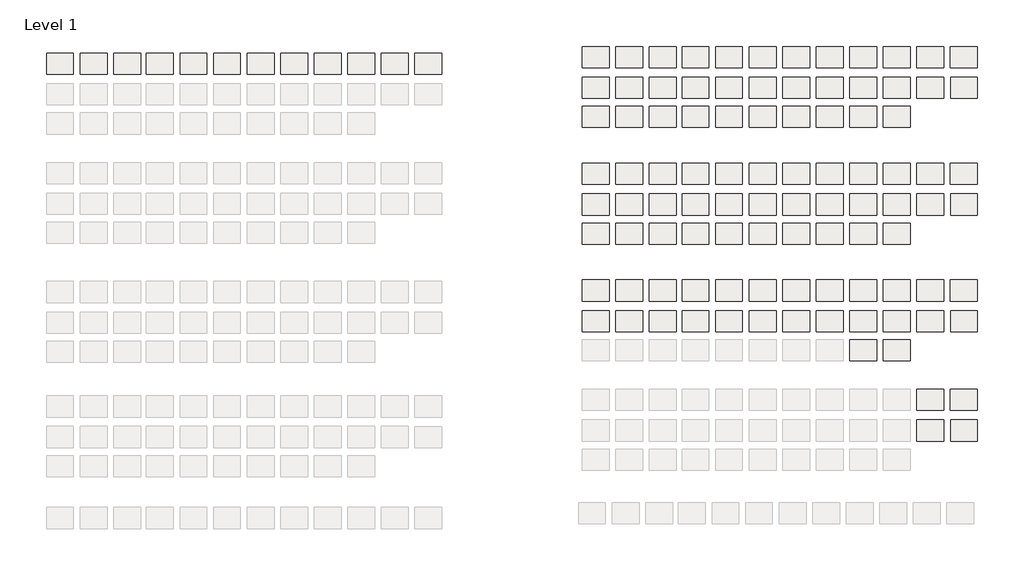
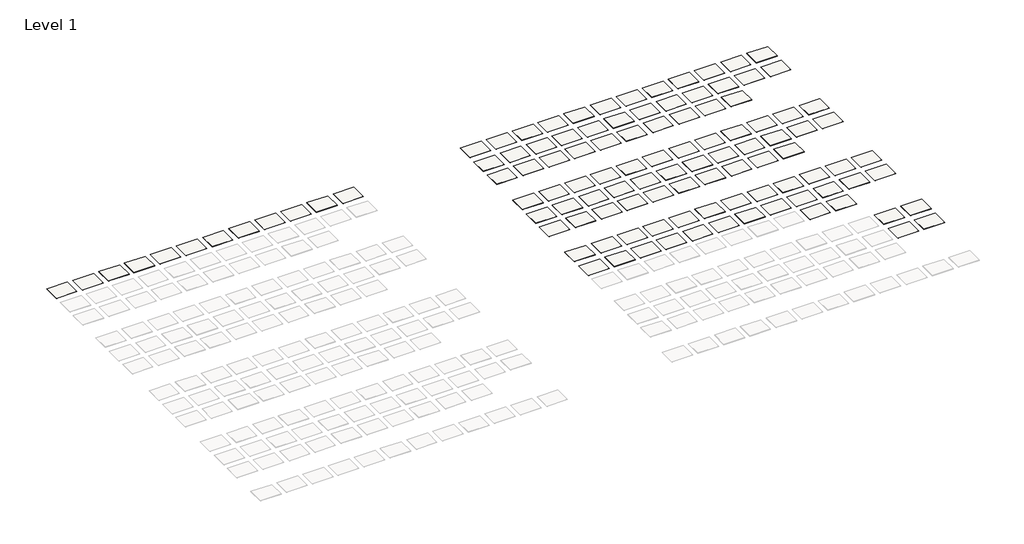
# One storey, part 4 of 4: 110 coverings.
"""IFC4 building model written with IfcOpenShell, lengths in millimetres."""

from ifc_helpers import new_model, si_unit, frame, origin, place, context, project, spatial, polyline, outline, extrude, element, save

model = new_model("IFC4")

# Units and contexts
model_context = context("Model", 3, world=origin())
ifc_project = project(units=[si_unit("LENGTHUNIT", "METRE", prefix="MILLI")], contexts=[model_context])

# Site, building, storey
site = spatial("IfcSite", under=ifc_project)
building = spatial("IfcBuilding", under=site)
storey = spatial("IfcBuildingStorey", under=building, Name="Level 1", Elevation=0.0)

# Coverings
placement = place(None, origin())
element("IfcCovering", 1, ObjectType="Rockfon Color-all E24 600 x 600 mm Petal", at=placement, inside=storey, context=model_context, shape_type="SweptSolid", body=[
    extrude(outline(polyline([(114319.6096566, -41151.2630286), (114319.6096566, -44051.2630286), (110629.6096566, -44051.2630286), (110629.6096566, -41151.2630286), (114319.6096566, -41151.2630286)])), frame((0.0, 0.0, 1.0), z_axis=(0.0, 0.0, 1.0), x_axis=(1.0, 0.0, 0.0)), (0.0, 0.0, 1.0), 20.0),
])
element("IfcCovering", 2, ObjectType="Rockfon Color-all E24 600 x 600 mm Mastic", at=placement, inside=storey, context=model_context, shape_type="SweptSolid", body=[
    extrude(outline(polyline([(114319.6096566, -45351.2630286), (114319.6096566, -48251.2630286), (110629.6096566, -48251.2630286), (110629.6096566, -45351.2630286), (114319.6096566, -45351.2630286)])), frame((0.0, 0.0, 1.0), z_axis=(0.0, 0.0, 1.0), x_axis=(1.0, 0.0, 0.0)), (0.0, 0.0, 1.0), 20.0),
])
element("IfcCovering", 3, ObjectType="Rockfon Color-all E24 600 x 600 mm Mercury", at=placement, inside=storey, context=model_context, shape_type="SweptSolid", body=[
    extrude(outline(polyline([(118938.680914, -45356.3905896), (118938.680914, -48256.3905896), (115248.680914, -48256.3905896), (115248.680914, -45356.3905896), (118938.680914, -45356.3905896)])), frame((0.0, 0.0, 1.0), z_axis=(0.0, 0.0, 1.0), x_axis=(1.0, 0.0, 0.0)), (0.0, 0.0, 1.0), 20.0),
])
element("IfcCovering", 4, ObjectType="Rockfon Color-all E24 600 x 600 mm Earth", at=placement, inside=storey, context=model_context, shape_type="SweptSolid", body=[
    extrude(outline(polyline([(118919.6096566, -41151.2630286), (118919.6096566, -44051.2630286), (115229.6096566, -44051.2630286), (115229.6096566, -41151.2630286), (118919.6096566, -41151.2630286)])), frame((0.0, 0.0, 1.0), z_axis=(0.0, 0.0, 1.0), x_axis=(1.0, 0.0, 0.0)), (0.0, 0.0, 1.0), 20.0),
])
element("IfcCovering", 5, ObjectType="Rockfon Color-all E15 600 x 600 mm Anthracite", at=placement, inside=storey, context=model_context, shape_type="SweptSolid", body=[
    extrude(outline(polyline([(68419.6096566, -26151.2630286), (68419.6096566, -29051.2630286), (64729.6096566, -29051.2630286), (64729.6096566, -26151.2630286), (68419.6096566, -26151.2630286)])), frame((0.0, 0.0, 1.0), z_axis=(0.0, 0.0, 1.0), x_axis=(1.0, 0.0, 0.0)), (0.0, 0.0, 1.0), 20.0),
])
element("IfcCovering", 6, ObjectType="Rockfon Color-all E15 600 x 600 mm Seaweed", at=placement, inside=storey, context=model_context, shape_type="SweptSolid", body=[
    extrude(outline(polyline([(68419.6096566, -30351.2630286), (68419.6096566, -33251.2630286), (64729.6096566, -33251.2630286), (64729.6096566, -30351.2630286), (68419.6096566, -30351.2630286)])), frame((0.0, 0.0, 1.0), z_axis=(0.0, 0.0, 1.0), x_axis=(1.0, 0.0, 0.0)), (0.0, 0.0, 1.0), 20.0),
])
element("IfcCovering", 7, ObjectType="Rockfon Color-all E15 600 x 600 mm Mustard", at=placement, inside=storey, context=model_context, shape_type="SweptSolid", body=[
    extrude(outline(polyline([(73019.6096566, -26151.2630286), (73019.6096566, -29051.2630286), (69329.6096566, -29051.2630286), (69329.6096566, -26151.2630286), (73019.6096566, -26151.2630286)])), frame((0.0, 0.0, 1.0), z_axis=(0.0, 0.0, 1.0), x_axis=(1.0, 0.0, 0.0)), (0.0, 0.0, 1.0), 20.0),
])
element("IfcCovering", 8, ObjectType="Rockfon Color-all E15 600 x 600 mm Eucalyptus", at=placement, inside=storey, context=model_context, shape_type="SweptSolid", body=[
    extrude(outline(polyline([(73019.6096566, -30351.2630286), (73019.6096566, -33251.2630286), (69329.6096566, -33251.2630286), (69329.6096566, -30351.2630286), (73019.6096566, -30351.2630286)])), frame((0.0, 0.0, 1.0), z_axis=(0.0, 0.0, 1.0), x_axis=(1.0, 0.0, 0.0)), (0.0, 0.0, 1.0), 20.0),
])
element("IfcCovering", 9, ObjectType="Rockfon Color-all E15 600 x 600 mm Sand", at=placement, inside=storey, context=model_context, shape_type="SweptSolid", body=[
    extrude(outline(polyline([(77619.6096566, -26151.2630286), (77619.6096566, -29051.2630286), (73929.6096566, -29051.2630286), (73929.6096566, -26151.2630286), (77619.6096566, -26151.2630286)])), frame((0.0, 0.0, 1.0), z_axis=(0.0, 0.0, 1.0), x_axis=(1.0, 0.0, 0.0)), (0.0, 0.0, 1.0), 20.0),
])
element("IfcCovering", 10, ObjectType="Rockfon Color-all E15 600 x 600 mm Fresh", at=placement, inside=storey, context=model_context, shape_type="SweptSolid", body=[
    extrude(outline(polyline([(77619.6096566, -30351.2630286), (77619.6096566, -33251.2630286), (73929.6096566, -33251.2630286), (73929.6096566, -30351.2630286), (77619.6096566, -30351.2630286)])), frame((0.0, 0.0, 1.0), z_axis=(0.0, 0.0, 1.0), x_axis=(1.0, 0.0, 0.0)), (0.0, 0.0, 1.0), 20.0),
])
element("IfcCovering", 11, ObjectType="Rockfon Color-all E15 600 x 600 mm Chalk", at=placement, inside=storey, context=model_context, shape_type="SweptSolid", body=[
    extrude(outline(polyline([(82119.6096566, -26151.2630286), (82119.6096566, -29051.2630286), (78429.6096566, -29051.2630286), (78429.6096566, -26151.2630286), (82119.6096566, -26151.2630286)])), frame((0.0, 0.0, 1.0), z_axis=(0.0, 0.0, 1.0), x_axis=(1.0, 0.0, 0.0)), (0.0, 0.0, 1.0), 20.0),
])
element("IfcCovering", 12, ObjectType="Rockfon Color-all E15 600 x 600 mm Sage", at=placement, inside=storey, context=model_context, shape_type="SweptSolid", body=[
    extrude(outline(polyline([(82119.6096566, -30351.2630286), (82119.6096566, -33251.2630286), (78429.6096566, -33251.2630286), (78429.6096566, -30351.2630286), (82119.6096566, -30351.2630286)])), frame((0.0, 0.0, 1.0), z_axis=(0.0, 0.0, 1.0), x_axis=(1.0, 0.0, 0.0)), (0.0, 0.0, 1.0), 20.0),
])
element("IfcCovering", 13, ObjectType="Rockfon Color-all E15 600 x 600 mm Charcoal", at=placement, inside=storey, context=model_context, shape_type="SweptSolid", body=[
    extrude(outline(polyline([(86719.6096566, -26151.2630286), (86719.6096566, -29051.2630286), (83029.6096566, -29051.2630286), (83029.6096566, -26151.2630286), (86719.6096566, -26151.2630286)])), frame((0.0, 0.0, 1.0), z_axis=(0.0, 0.0, 1.0), x_axis=(1.0, 0.0, 0.0)), (0.0, 0.0, 1.0), 20.0),
])
element("IfcCovering", 14, ObjectType="Rockfon Color-all E15 600 x 600 mm Mint", at=placement, inside=storey, context=model_context, shape_type="SweptSolid", body=[
    extrude(outline(polyline([(86719.6096566, -30351.2630286), (86719.6096566, -33251.2630286), (83029.6096566, -33251.2630286), (83029.6096566, -30351.2630286), (86719.6096566, -30351.2630286)])), frame((0.0, 0.0, 1.0), z_axis=(0.0, 0.0, 1.0), x_axis=(1.0, 0.0, 0.0)), (0.0, 0.0, 1.0), 20.0),
])
element("IfcCovering", 15, ObjectType="Rockfon Color-all E15 600 x 600 mm Coral", at=placement, inside=storey, context=model_context, shape_type="SweptSolid", body=[
    extrude(outline(polyline([(91319.6096566, -26151.2630286), (91319.6096566, -29051.2630286), (87629.6096566, -29051.2630286), (87629.6096566, -26151.2630286), (91319.6096566, -26151.2630286)])), frame((0.0, 0.0, 1.0), z_axis=(0.0, 0.0, 1.0), x_axis=(1.0, 0.0, 0.0)), (0.0, 0.0, 1.0), 20.0),
])
element("IfcCovering", 16, ObjectType="Rockfon Color-all E15 600 x 600 mm Gravel", at=placement, inside=storey, context=model_context, shape_type="SweptSolid", body=[
    extrude(outline(polyline([(91319.6096566, -30351.2630286), (91319.6096566, -33251.2630286), (87629.6096566, -33251.2630286), (87629.6096566, -30351.2630286), (91319.6096566, -30351.2630286)])), frame((0.0, 0.0, 1.0), z_axis=(0.0, 0.0, 1.0), x_axis=(1.0, 0.0, 0.0)), (0.0, 0.0, 1.0), 20.0),
])
element("IfcCovering", 17, ObjectType="Rockfon Color-all E15 600 x 600 mm Clay", at=placement, inside=storey, context=model_context, shape_type="SweptSolid", body=[
    extrude(outline(polyline([(95919.6096566, -26151.2630286), (95919.6096566, -29051.2630286), (92229.6096566, -29051.2630286), (92229.6096566, -26151.2630286), (95919.6096566, -26151.2630286)])), frame((0.0, 0.0, 1.0), z_axis=(0.0, 0.0, 1.0), x_axis=(1.0, 0.0, 0.0)), (0.0, 0.0, 1.0), 20.0),
])
element("IfcCovering", 18, ObjectType="Rockfon Color-all E15 600 x 600 mm Hemp", at=placement, inside=storey, context=model_context, shape_type="SweptSolid", body=[
    extrude(outline(polyline([(95919.6096566, -30351.2630286), (95919.6096566, -33251.2630286), (92229.6096566, -33251.2630286), (92229.6096566, -30351.2630286), (95919.6096566, -30351.2630286)])), frame((0.0, 0.0, 1.0), z_axis=(0.0, 0.0, 1.0), x_axis=(1.0, 0.0, 0.0)), (0.0, 0.0, 1.0), 20.0),
])
element("IfcCovering", 19, ObjectType="Rockfon Color-all E15 600 x 600 mm Concrete", at=placement, inside=storey, context=model_context, shape_type="SweptSolid", body=[
    extrude(outline(polyline([(100519.6096566, -26151.2630286), (100519.6096566, -29051.2630286), (96829.6096566, -29051.2630286), (96829.6096566, -26151.2630286), (100519.6096566, -26151.2630286)])), frame((0.0, 0.0, 1.0), z_axis=(0.0, 0.0, 1.0), x_axis=(1.0, 0.0, 0.0)), (0.0, 0.0, 1.0), 20.0),
])
element("IfcCovering", 20, ObjectType="Rockfon Color-all E15 600 x 600 mm Space", at=placement, inside=storey, context=model_context, shape_type="SweptSolid", body=[
    extrude(outline(polyline([(100519.6096566, -30351.2630286), (100519.6096566, -33251.2630286), (96829.6096566, -33251.2630286), (96829.6096566, -30351.2630286), (100519.6096566, -30351.2630286)])), frame((0.0, 0.0, 1.0), z_axis=(0.0, 0.0, 1.0), x_axis=(1.0, 0.0, 0.0)), (0.0, 0.0, 1.0), 20.0),
])
element("IfcCovering", 21, ObjectType="Rockfon Color-all E15 600 x 600 mm Seashell", at=placement, inside=storey, context=model_context, shape_type="SweptSolid", body=[
    extrude(outline(polyline([(105119.6096566, -26151.2630286), (105119.6096566, -29051.2630286), (101429.6096566, -29051.2630286), (101429.6096566, -26151.2630286), (105119.6096566, -26151.2630286)])), frame((0.0, 0.0, 1.0), z_axis=(0.0, 0.0, 1.0), x_axis=(1.0, 0.0, 0.0)), (0.0, 0.0, 1.0), 20.0),
])
element("IfcCovering", 22, ObjectType="Rockfon Color-all E15 600 x 600 mm Storm", at=placement, inside=storey, context=model_context, shape_type="SweptSolid", body=[
    extrude(outline(polyline([(105119.6096566, -30351.2630286), (105119.6096566, -33251.2630286), (101429.6096566, -33251.2630286), (101429.6096566, -30351.2630286), (105119.6096566, -30351.2630286)])), frame((0.0, 0.0, 1.0), z_axis=(0.0, 0.0, 1.0), x_axis=(1.0, 0.0, 0.0)), (0.0, 0.0, 1.0), 20.0),
])
element("IfcCovering", 23, ObjectType="Rockfon Color-all E15 600 x 600 mm Moon", at=placement, inside=storey, context=model_context, shape_type="SweptSolid", body=[
    extrude(outline(polyline([(105119.6096566, -34351.2630286), (105119.6096566, -37251.2630286), (101429.6096566, -37251.2630286), (101429.6096566, -34351.2630286), (105119.6096566, -34351.2630286)])), frame((0.0, 0.0, 1.0), z_axis=(0.0, 0.0, 1.0), x_axis=(1.0, 0.0, 0.0)), (0.0, 0.0, 1.0), 20.0),
])
element("IfcCovering", 24, ObjectType="Rockfon Color-all E15 600 x 600 mm Cork", at=placement, inside=storey, context=model_context, shape_type="SweptSolid", body=[
    extrude(outline(polyline([(109719.6096566, -26151.2630286), (109719.6096566, -29051.2630286), (106029.6096566, -29051.2630286), (106029.6096566, -26151.2630286), (109719.6096566, -26151.2630286)])), frame((0.0, 0.0, 1.0), z_axis=(0.0, 0.0, 1.0), x_axis=(1.0, 0.0, 0.0)), (0.0, 0.0, 1.0), 20.0),
])
element("IfcCovering", 25, ObjectType="Rockfon Color-all E15 600 x 600 mm Linen", at=placement, inside=storey, context=model_context, shape_type="SweptSolid", body=[
    extrude(outline(polyline([(109719.6096566, -30351.2630286), (109719.6096566, -33251.2630286), (106029.6096566, -33251.2630286), (106029.6096566, -30351.2630286), (109719.6096566, -30351.2630286)])), frame((0.0, 0.0, 1.0), z_axis=(0.0, 0.0, 1.0), x_axis=(1.0, 0.0, 0.0)), (0.0, 0.0, 1.0), 20.0),
])
element("IfcCovering", 26, ObjectType="Rockfon Color-all E15 600 x 600 mm Zinc", at=placement, inside=storey, context=model_context, shape_type="SweptSolid", body=[
    extrude(outline(polyline([(109719.6096566, -34351.2630286), (109719.6096566, -37251.2630286), (106029.6096566, -37251.2630286), (106029.6096566, -34351.2630286), (109719.6096566, -34351.2630286)])), frame((0.0, 0.0, 1.0), z_axis=(0.0, 0.0, 1.0), x_axis=(1.0, 0.0, 0.0)), (0.0, 0.0, 1.0), 20.0),
])
element("IfcCovering", 27, ObjectType="Rockfon Color-all E15 600 x 600 mm Petal", at=placement, inside=storey, context=model_context, shape_type="SweptSolid", body=[
    extrude(outline(polyline([(114319.6096566, -26151.2630286), (114319.6096566, -29051.2630286), (110629.6096566, -29051.2630286), (110629.6096566, -26151.2630286), (114319.6096566, -26151.2630286)])), frame((0.0, 0.0, 1.0), z_axis=(0.0, 0.0, 1.0), x_axis=(1.0, 0.0, 0.0)), (0.0, 0.0, 1.0), 20.0),
])
element("IfcCovering", 28, ObjectType="Rockfon Color-all E15 600 x 600 mm Mastic", at=placement, inside=storey, context=model_context, shape_type="SweptSolid", body=[
    extrude(outline(polyline([(114319.6096566, -30351.2630286), (114319.6096566, -33251.2630286), (110629.6096566, -33251.2630286), (110629.6096566, -30351.2630286), (114319.6096566, -30351.2630286)])), frame((0.0, 0.0, 1.0), z_axis=(0.0, 0.0, 1.0), x_axis=(1.0, 0.0, 0.0)), (0.0, 0.0, 1.0), 20.0),
])
element("IfcCovering", 29, ObjectType="Rockfon Color-all E15 600 x 600 mm Mercury", at=placement, inside=storey, context=model_context, shape_type="SweptSolid", body=[
    extrude(outline(polyline([(118938.680914, -30356.3905896), (118938.680914, -33256.3905896), (115248.680914, -33256.3905896), (115248.680914, -30356.3905896), (118938.680914, -30356.3905896)])), frame((0.0, 0.0, 1.0), z_axis=(0.0, 0.0, 1.0), x_axis=(1.0, 0.0, 0.0)), (0.0, 0.0, 1.0), 20.0),
])
element("IfcCovering", 30, ObjectType="Rockfon Color-all E15 600 x 600 mm Earth", at=placement, inside=storey, context=model_context, shape_type="SweptSolid", body=[
    extrude(outline(polyline([(118919.6096566, -26151.2630286), (118919.6096566, -29051.2630286), (115229.6096566, -29051.2630286), (115229.6096566, -26151.2630286), (118919.6096566, -26151.2630286)])), frame((0.0, 0.0, 1.0), z_axis=(0.0, 0.0, 1.0), x_axis=(1.0, 0.0, 0.0)), (0.0, 0.0, 1.0), 20.0),
])
element("IfcCovering", 31, ObjectType="Rockfon Color-all X 600 x 600 mm Anthracite", at=placement, inside=storey, context=model_context, shape_type="SweptSolid", body=[
    extrude(outline(polyline([(-5022.2855434, 4948.2467138), (-5022.2855434, 2048.2467138), (-8712.2855434, 2048.2467138), (-8712.2855434, 4948.2467138), (-5022.2855434, 4948.2467138)])), frame((0.0, 0.0, 1.0), z_axis=(0.0, 0.0, 1.0), x_axis=(1.0, 0.0, 0.0)), (0.0, 0.0, 1.0), 22.0),
])
element("IfcCovering", 32, ObjectType="Rockfon Color-all X 600 x 600 mm Mustard", at=placement, inside=storey, context=model_context, shape_type="SweptSolid", body=[
    extrude(outline(polyline([(-422.2855434, 4948.2467138), (-422.2855434, 2048.2467138), (-4112.2855434, 2048.2467138), (-4112.2855434, 4948.2467138), (-422.2855434, 4948.2467138)])), frame((0.0, 0.0, 1.0), z_axis=(0.0, 0.0, 1.0), x_axis=(1.0, 0.0, 0.0)), (0.0, 0.0, 1.0), 22.0),
])
element("IfcCovering", 33, ObjectType="Rockfon Color-all X 600 x 600 mm Sand", at=placement, inside=storey, context=model_context, shape_type="SweptSolid", body=[
    extrude(outline(polyline([(4177.7144566, 4948.2467138), (4177.7144566, 2048.2467138), (487.7144566, 2048.2467138), (487.7144566, 4948.2467138), (4177.7144566, 4948.2467138)])), frame((0.0, 0.0, 1.0), z_axis=(0.0, 0.0, 1.0), x_axis=(1.0, 0.0, 0.0)), (0.0, 0.0, 1.0), 15.0),
])
element("IfcCovering", 34, ObjectType="Rockfon Color-all X 600 x 600 mm Chalk", at=placement, inside=storey, context=model_context, shape_type="SweptSolid", body=[
    extrude(outline(polyline([(8677.7144566, 4948.2467138), (8677.7144566, 2048.2467138), (4987.7144566, 2048.2467138), (4987.7144566, 4948.2467138), (8677.7144566, 4948.2467138)])), frame((0.0, 0.0, 1.0), z_axis=(0.0, 0.0, 1.0), x_axis=(1.0, 0.0, 0.0)), (0.0, 0.0, 1.0), 22.0),
])
element("IfcCovering", 35, ObjectType="Rockfon Color-all X 600 x 600 mm Charcoal", at=placement, inside=storey, context=model_context, shape_type="SweptSolid", body=[
    extrude(outline(polyline([(13277.7144566, 4948.2467138), (13277.7144566, 2048.2467138), (9587.7144566, 2048.2467138), (9587.7144566, 4948.2467138), (13277.7144566, 4948.2467138)])), frame((0.0, 0.0, 1.0), z_axis=(0.0, 0.0, 1.0), x_axis=(1.0, 0.0, 0.0)), (0.0, 0.0, 1.0), 22.0),
])
element("IfcCovering", 36, ObjectType="Rockfon Color-all X 600 x 600 mm Coral", at=placement, inside=storey, context=model_context, shape_type="SweptSolid", body=[
    extrude(outline(polyline([(17877.7144566, 4948.2467138), (17877.7144566, 2048.2467138), (14187.7144566, 2048.2467138), (14187.7144566, 4948.2467138), (17877.7144566, 4948.2467138)])), frame((0.0, 0.0, 1.0), z_axis=(0.0, 0.0, 1.0), x_axis=(1.0, 0.0, 0.0)), (0.0, 0.0, 1.0), 22.0),
])
element("IfcCovering", 37, ObjectType="Rockfon Color-all X 600 x 600 mm Clay", at=placement, inside=storey, context=model_context, shape_type="SweptSolid", body=[
    extrude(outline(polyline([(22477.7144566, 4948.2467138), (22477.7144566, 2048.2467138), (18787.7144566, 2048.2467138), (18787.7144566, 4948.2467138), (22477.7144566, 4948.2467138)])), frame((0.0, 0.0, 1.0), z_axis=(0.0, 0.0, 1.0), x_axis=(1.0, 0.0, 0.0)), (0.0, 0.0, 1.0), 22.0),
])
element("IfcCovering", 38, ObjectType="Rockfon Color-all X 600 x 600 mm Concrete", at=placement, inside=storey, context=model_context, shape_type="SweptSolid", body=[
    extrude(outline(polyline([(27077.7144566, 4948.2467138), (27077.7144566, 2048.2467138), (23387.7144566, 2048.2467138), (23387.7144566, 4948.2467138), (27077.7144566, 4948.2467138)])), frame((0.0, 0.0, 1.0), z_axis=(0.0, 0.0, 1.0), x_axis=(1.0, 0.0, 0.0)), (0.0, 0.0, 1.0), 22.0),
])
element("IfcCovering", 39, ObjectType="Rockfon Color-all X 600 x 600 mm Seashell", at=placement, inside=storey, context=model_context, shape_type="SweptSolid", body=[
    extrude(outline(polyline([(31677.7144566, 4948.2467138), (31677.7144566, 2048.2467138), (27987.7144566, 2048.2467138), (27987.7144566, 4948.2467138), (31677.7144566, 4948.2467138)])), frame((0.0, 0.0, 1.0), z_axis=(0.0, 0.0, 1.0), x_axis=(1.0, 0.0, 0.0)), (0.0, 0.0, 1.0), 22.0),
])
element("IfcCovering", 40, ObjectType="Rockfon Color-all X 600 x 600 mm Cork", at=placement, inside=storey, context=model_context, shape_type="SweptSolid", body=[
    extrude(outline(polyline([(36277.7144566, 4948.2467138), (36277.7144566, 2048.2467138), (32587.7144566, 2048.2467138), (32587.7144566, 4948.2467138), (36277.7144566, 4948.2467138)])), frame((0.0, 0.0, 1.0), z_axis=(0.0, 0.0, 1.0), x_axis=(1.0, 0.0, 0.0)), (0.0, 0.0, 1.0), 22.0),
])
element("IfcCovering", 41, ObjectType="Rockfon Color-all X 600 x 600 mm Petal", at=placement, inside=storey, context=model_context, shape_type="SweptSolid", body=[
    extrude(outline(polyline([(40877.7144566, 4948.2467138), (40877.7144566, 2048.2467138), (37187.7144566, 2048.2467138), (37187.7144566, 4948.2467138), (40877.7144566, 4948.2467138)])), frame((0.0, 0.0, 1.0), z_axis=(0.0, 0.0, 1.0), x_axis=(1.0, 0.0, 0.0)), (0.0, 0.0, 1.0), 22.0),
])
element("IfcCovering", 42, ObjectType="Rockfon Color-all X 600 x 600 mm Earth", at=placement, inside=storey, context=model_context, shape_type="SweptSolid", body=[
    extrude(outline(polyline([(45477.7144566, 4948.2467138), (45477.7144566, 2048.2467138), (41787.7144566, 2048.2467138), (41787.7144566, 4948.2467138), (45477.7144566, 4948.2467138)])), frame((0.0, 0.0, 1.0), z_axis=(0.0, 0.0, 1.0), x_axis=(1.0, 0.0, 0.0)), (0.0, 0.0, 1.0), 22.0),
])
element("IfcCovering", 43, ObjectType="Rockfon Color-all A24 2100 x 600 mm Anthracite", at=placement, inside=storey, context=model_context, shape_type="SweptSolid", body=[
    extrude(outline(polyline([(68419.6096566, 5848.7369714), (68419.6096566, 2948.7369714), (64729.6096566, 2948.7369714), (64729.6096566, 5848.7369714), (68419.6096566, 5848.7369714)])), frame((0.0, 0.0, 1.0), z_axis=(0.0, 0.0, 1.0), x_axis=(1.0, 0.0, 0.0)), (0.0, 0.0, 1.0), 20.0),
])
element("IfcCovering", 44, ObjectType="Rockfon Color-all A24 2100 x 600 mm Seaweed", at=placement, inside=storey, context=model_context, shape_type="SweptSolid", body=[
    extrude(outline(polyline([(68419.6096566, 1648.7369714), (68419.6096566, -1251.2630286), (64729.6096566, -1251.2630286), (64729.6096566, 1648.7369714), (68419.6096566, 1648.7369714)])), frame((0.0, 0.0, 1.0), z_axis=(0.0, 0.0, 1.0), x_axis=(1.0, 0.0, 0.0)), (0.0, 0.0, 1.0), 20.0),
])
element("IfcCovering", 45, ObjectType="Rockfon Color-all A24 2100 x 600 mm Azure", at=placement, inside=storey, context=model_context, shape_type="SweptSolid", body=[
    extrude(outline(polyline([(68419.6096566, -2351.2630286), (68419.6096566, -5251.2630286), (64729.6096566, -5251.2630286), (64729.6096566, -2351.2630286), (68419.6096566, -2351.2630286)])), frame((0.0, 0.0, 1.0), z_axis=(0.0, 0.0, 1.0), x_axis=(1.0, 0.0, 0.0)), (0.0, 0.0, 1.0), 20.0),
])
element("IfcCovering", 46, ObjectType="Rockfon Color-all A24 2100 x 600 mm Mustard", at=placement, inside=storey, context=model_context, shape_type="SweptSolid", body=[
    extrude(outline(polyline([(73019.6096566, 5848.7369714), (73019.6096566, 2948.7369714), (69329.6096566, 2948.7369714), (69329.6096566, 5848.7369714), (73019.6096566, 5848.7369714)])), frame((0.0, 0.0, 1.0), z_axis=(0.0, 0.0, 1.0), x_axis=(1.0, 0.0, 0.0)), (0.0, 0.0, 1.0), 20.0),
])
element("IfcCovering", 47, ObjectType="Rockfon Color-all A24 2100 x 600 mm Eucalyptus", at=placement, inside=storey, context=model_context, shape_type="SweptSolid", body=[
    extrude(outline(polyline([(73019.6096566, 1648.7369714), (73019.6096566, -1251.2630286), (69329.6096566, -1251.2630286), (69329.6096566, 1648.7369714), (73019.6096566, 1648.7369714)])), frame((0.0, 0.0, 1.0), z_axis=(0.0, 0.0, 1.0), x_axis=(1.0, 0.0, 0.0)), (0.0, 0.0, 1.0), 20.0),
])
element("IfcCovering", 48, ObjectType="Rockfon Color-all A24 2100 x 600 mm Plaster", at=placement, inside=storey, context=model_context, shape_type="SweptSolid", body=[
    extrude(outline(polyline([(73019.6096566, -2351.2630286), (73019.6096566, -5251.2630286), (69329.6096566, -5251.2630286), (69329.6096566, -2351.2630286), (73019.6096566, -2351.2630286)])), frame((0.0, 0.0, 1.0), z_axis=(0.0, 0.0, 1.0), x_axis=(1.0, 0.0, 0.0)), (0.0, 0.0, 1.0), 20.0),
])
element("IfcCovering", 49, ObjectType="Rockfon Color-all A24 2100 x 600 mm Sand", at=placement, inside=storey, context=model_context, shape_type="SweptSolid", body=[
    extrude(outline(polyline([(77619.6096566, 5848.7369714), (77619.6096566, 2948.7369714), (73929.6096566, 2948.7369714), (73929.6096566, 5848.7369714), (77619.6096566, 5848.7369714)])), frame((0.0, 0.0, 1.0), z_axis=(0.0, 0.0, 1.0), x_axis=(1.0, 0.0, 0.0)), (0.0, 0.0, 1.0), 20.0),
])
element("IfcCovering", 50, ObjectType="Rockfon Color-all A24 2100 x 600 mm Fresh", at=placement, inside=storey, context=model_context, shape_type="SweptSolid", body=[
    extrude(outline(polyline([(77619.6096566, 1648.7369714), (77619.6096566, -1251.2630286), (73929.6096566, -1251.2630286), (73929.6096566, 1648.7369714), (77619.6096566, 1648.7369714)])), frame((0.0, 0.0, 1.0), z_axis=(0.0, 0.0, 1.0), x_axis=(1.0, 0.0, 0.0)), (0.0, 0.0, 1.0), 20.0),
])
element("IfcCovering", 51, ObjectType="Rockfon Color-all A24 2100 x 600 mm Scarlet", at=placement, inside=storey, context=model_context, shape_type="SweptSolid", body=[
    extrude(outline(polyline([(77619.6096566, -2351.2630286), (77619.6096566, -5251.2630286), (73929.6096566, -5251.2630286), (73929.6096566, -2351.2630286), (77619.6096566, -2351.2630286)])), frame((0.0, 0.0, 1.0), z_axis=(0.0, 0.0, 1.0), x_axis=(1.0, 0.0, 0.0)), (0.0, 0.0, 1.0), 20.0),
])
element("IfcCovering", 52, ObjectType="Rockfon Color-all A24 2100 x 600 mm Chalk", at=placement, inside=storey, context=model_context, shape_type="SweptSolid", body=[
    extrude(outline(polyline([(82119.6096566, 5848.7369714), (82119.6096566, 2948.7369714), (78429.6096566, 2948.7369714), (78429.6096566, 5848.7369714), (82119.6096566, 5848.7369714)])), frame((0.0, 0.0, 1.0), z_axis=(0.0, 0.0, 1.0), x_axis=(1.0, 0.0, 0.0)), (0.0, 0.0, 1.0), 20.0),
])
element("IfcCovering", 53, ObjectType="Rockfon Color-all A24 2100 x 600 mm Sage", at=placement, inside=storey, context=model_context, shape_type="SweptSolid", body=[
    extrude(outline(polyline([(82119.6096566, 1648.7369714), (82119.6096566, -1251.2630286), (78429.6096566, -1251.2630286), (78429.6096566, 1648.7369714), (82119.6096566, 1648.7369714)])), frame((0.0, 0.0, 1.0), z_axis=(0.0, 0.0, 1.0), x_axis=(1.0, 0.0, 0.0)), (0.0, 0.0, 1.0), 20.0),
])
element("IfcCovering", 54, ObjectType="Rockfon Color-all A24 2100 x 600 mm Stone", at=placement, inside=storey, context=model_context, shape_type="SweptSolid", body=[
    extrude(outline(polyline([(82119.6096566, -2351.2630286), (82119.6096566, -5251.2630286), (78429.6096566, -5251.2630286), (78429.6096566, -2351.2630286), (82119.6096566, -2351.2630286)])), frame((0.0, 0.0, 1.0), z_axis=(0.0, 0.0, 1.0), x_axis=(1.0, 0.0, 0.0)), (0.0, 0.0, 1.0), 20.0),
])
element("IfcCovering", 55, ObjectType="Rockfon Color-all A24 2100 x 600 mm Charcoal", at=placement, inside=storey, context=model_context, shape_type="SweptSolid", body=[
    extrude(outline(polyline([(86719.6096566, 5848.7369714), (86719.6096566, 2948.7369714), (83029.6096566, 2948.7369714), (83029.6096566, 5848.7369714), (86719.6096566, 5848.7369714)])), frame((0.0, 0.0, 1.0), z_axis=(0.0, 0.0, 1.0), x_axis=(1.0, 0.0, 0.0)), (0.0, 0.0, 1.0), 20.0),
])
element("IfcCovering", 56, ObjectType="Rockfon Color-all A24 2100 x 600 mm Mint", at=placement, inside=storey, context=model_context, shape_type="SweptSolid", body=[
    extrude(outline(polyline([(86719.6096566, 1648.7369714), (86719.6096566, -1251.2630286), (83029.6096566, -1251.2630286), (83029.6096566, 1648.7369714), (86719.6096566, 1648.7369714)])), frame((0.0, 0.0, 1.0), z_axis=(0.0, 0.0, 1.0), x_axis=(1.0, 0.0, 0.0)), (0.0, 0.0, 1.0), 20.0),
])
element("IfcCovering", 57, ObjectType="Rockfon Color-all A24 2100 x 600 mm Stucco", at=placement, inside=storey, context=model_context, shape_type="SweptSolid", body=[
    extrude(outline(polyline([(86719.6096566, -2351.2630286), (86719.6096566, -5251.2630286), (83029.6096566, -5251.2630286), (83029.6096566, -2351.2630286), (86719.6096566, -2351.2630286)])), frame((0.0, 0.0, 1.0), z_axis=(0.0, 0.0, 1.0), x_axis=(1.0, 0.0, 0.0)), (0.0, 0.0, 1.0), 20.0),
])
element("IfcCovering", 58, ObjectType="Rockfon Color-all A24 2100 x 600 mm Coral", at=placement, inside=storey, context=model_context, shape_type="SweptSolid", body=[
    extrude(outline(polyline([(91319.6096566, 5848.7369714), (91319.6096566, 2948.7369714), (87629.6096566, 2948.7369714), (87629.6096566, 5848.7369714), (91319.6096566, 5848.7369714)])), frame((0.0, 0.0, 1.0), z_axis=(0.0, 0.0, 1.0), x_axis=(1.0, 0.0, 0.0)), (0.0, 0.0, 1.0), 20.0),
])
element("IfcCovering", 59, ObjectType="Rockfon Color-all A24 2100 x 600 mm Gravel", at=placement, inside=storey, context=model_context, shape_type="SweptSolid", body=[
    extrude(outline(polyline([(91319.6096566, 1648.7369714), (91319.6096566, -1251.2630286), (87629.6096566, -1251.2630286), (87629.6096566, 1648.7369714), (91319.6096566, 1648.7369714)])), frame((0.0, 0.0, 1.0), z_axis=(0.0, 0.0, 1.0), x_axis=(1.0, 0.0, 0.0)), (0.0, 0.0, 1.0), 20.0),
])
element("IfcCovering", 60, ObjectType="Rockfon Color-all A24 2100 x 600 mm Sandalwood", at=placement, inside=storey, context=model_context, shape_type="SweptSolid", body=[
    extrude(outline(polyline([(91319.6096566, -2351.2630286), (91319.6096566, -5251.2630286), (87629.6096566, -5251.2630286), (87629.6096566, -2351.2630286), (91319.6096566, -2351.2630286)])), frame((0.0, 0.0, 1.0), z_axis=(0.0, 0.0, 1.0), x_axis=(1.0, 0.0, 0.0)), (0.0, 0.0, 1.0), 20.0),
])
element("IfcCovering", 61, ObjectType="Rockfon Color-all A24 2100 x 600 mm Clay", at=placement, inside=storey, context=model_context, shape_type="SweptSolid", body=[
    extrude(outline(polyline([(95919.6096566, 5848.7369714), (95919.6096566, 2948.7369714), (92229.6096566, 2948.7369714), (92229.6096566, 5848.7369714), (95919.6096566, 5848.7369714)])), frame((0.0, 0.0, 1.0), z_axis=(0.0, 0.0, 1.0), x_axis=(1.0, 0.0, 0.0)), (0.0, 0.0, 1.0), 20.0),
])
element("IfcCovering", 62, ObjectType="Rockfon Color-all A24 2100 x 600 mm Hemp", at=placement, inside=storey, context=model_context, shape_type="SweptSolid", body=[
    extrude(outline(polyline([(95919.6096566, 1648.7369714), (95919.6096566, -1251.2630286), (92229.6096566, -1251.2630286), (92229.6096566, 1648.7369714), (95919.6096566, 1648.7369714)])), frame((0.0, 0.0, 1.0), z_axis=(0.0, 0.0, 1.0), x_axis=(1.0, 0.0, 0.0)), (0.0, 0.0, 1.0), 20.0),
])
element("IfcCovering", 63, ObjectType="Rockfon Color-all A24 2100 x 600 mm Ebony", at=placement, inside=storey, context=model_context, shape_type="SweptSolid", body=[
    extrude(outline(polyline([(95919.6096566, -2351.2630286), (95919.6096566, -5251.2630286), (92229.6096566, -5251.2630286), (92229.6096566, -2351.2630286), (95919.6096566, -2351.2630286)])), frame((0.0, 0.0, 1.0), z_axis=(0.0, 0.0, 1.0), x_axis=(1.0, 0.0, 0.0)), (0.0, 0.0, 1.0), 20.0),
])
element("IfcCovering", 64, ObjectType="Rockfon Color-all A24 2100 x 600 mm Concrete", at=placement, inside=storey, context=model_context, shape_type="SweptSolid", body=[
    extrude(outline(polyline([(100519.6096566, 5848.7369714), (100519.6096566, 2948.7369714), (96829.6096566, 2948.7369714), (96829.6096566, 5848.7369714), (100519.6096566, 5848.7369714)])), frame((0.0, 0.0, 1.0), z_axis=(0.0, 0.0, 1.0), x_axis=(1.0, 0.0, 0.0)), (0.0, 0.0, 1.0), 20.0),
])
element("IfcCovering", 65, ObjectType="Rockfon Color-all A24 2100 x 600 mm Space", at=placement, inside=storey, context=model_context, shape_type="SweptSolid", body=[
    extrude(outline(polyline([(100519.6096566, 1648.7369714), (100519.6096566, -1251.2630286), (96829.6096566, -1251.2630286), (96829.6096566, 1648.7369714), (100519.6096566, 1648.7369714)])), frame((0.0, 0.0, 1.0), z_axis=(0.0, 0.0, 1.0), x_axis=(1.0, 0.0, 0.0)), (0.0, 0.0, 1.0), 20.0),
])
element("IfcCovering", 66, ObjectType="Rockfon Color-all A24 2100 x 600 mm Iron", at=placement, inside=storey, context=model_context, shape_type="SweptSolid", body=[
    extrude(outline(polyline([(100519.6096566, -2351.2630286), (100519.6096566, -5251.2630286), (96829.6096566, -5251.2630286), (96829.6096566, -2351.2630286), (100519.6096566, -2351.2630286)])), frame((0.0, 0.0, 1.0), z_axis=(0.0, 0.0, 1.0), x_axis=(1.0, 0.0, 0.0)), (0.0, 0.0, 1.0), 20.0),
])
element("IfcCovering", 67, ObjectType="Rockfon Color-all A24 2100 x 600 mm Seashell", at=placement, inside=storey, context=model_context, shape_type="SweptSolid", body=[
    extrude(outline(polyline([(105119.6096566, 5848.7369714), (105119.6096566, 2948.7369714), (101429.6096566, 2948.7369714), (101429.6096566, 5848.7369714), (105119.6096566, 5848.7369714)])), frame((0.0, 0.0, 1.0), z_axis=(0.0, 0.0, 1.0), x_axis=(1.0, 0.0, 0.0)), (0.0, 0.0, 1.0), 20.0),
])
element("IfcCovering", 68, ObjectType="Rockfon Color-all A24 2100 x 600 mm Storm", at=placement, inside=storey, context=model_context, shape_type="SweptSolid", body=[
    extrude(outline(polyline([(105119.6096566, 1648.7369714), (105119.6096566, -1251.2630286), (101429.6096566, -1251.2630286), (101429.6096566, 1648.7369714), (105119.6096566, 1648.7369714)])), frame((0.0, 0.0, 1.0), z_axis=(0.0, 0.0, 1.0), x_axis=(1.0, 0.0, 0.0)), (0.0, 0.0, 1.0), 20.0),
])
element("IfcCovering", 69, ObjectType="Rockfon Color-all A24 2100 x 600 mm Moon", at=placement, inside=storey, context=model_context, shape_type="SweptSolid", body=[
    extrude(outline(polyline([(105119.6096566, -2351.2630286), (105119.6096566, -5251.2630286), (101429.6096566, -5251.2630286), (101429.6096566, -2351.2630286), (105119.6096566, -2351.2630286)])), frame((0.0, 0.0, 1.0), z_axis=(0.0, 0.0, 1.0), x_axis=(1.0, 0.0, 0.0)), (0.0, 0.0, 1.0), 20.0),
])
element("IfcCovering", 70, ObjectType="Rockfon Color-all A24 2100 x 600 mm Cork", at=placement, inside=storey, context=model_context, shape_type="SweptSolid", body=[
    extrude(outline(polyline([(109719.6096566, 5848.7369714), (109719.6096566, 2948.7369714), (106029.6096566, 2948.7369714), (106029.6096566, 5848.7369714), (109719.6096566, 5848.7369714)])), frame((0.0, 0.0, 1.0), z_axis=(0.0, 0.0, 1.0), x_axis=(1.0, 0.0, 0.0)), (0.0, 0.0, 1.0), 20.0),
])
element("IfcCovering", 71, ObjectType="Rockfon Color-all A24 2100 x 600 mm Linen", at=placement, inside=storey, context=model_context, shape_type="SweptSolid", body=[
    extrude(outline(polyline([(109719.6096566, 1648.7369714), (109719.6096566, -1251.2630286), (106029.6096566, -1251.2630286), (106029.6096566, 1648.7369714), (109719.6096566, 1648.7369714)])), frame((0.0, 0.0, 1.0), z_axis=(0.0, 0.0, 1.0), x_axis=(1.0, 0.0, 0.0)), (0.0, 0.0, 1.0), 20.0),
])
element("IfcCovering", 72, ObjectType="Rockfon Color-all A24 2100 x 600 mm Zinc", at=placement, inside=storey, context=model_context, shape_type="SweptSolid", body=[
    extrude(outline(polyline([(109719.6096566, -2351.2630286), (109719.6096566, -5251.2630286), (106029.6096566, -5251.2630286), (106029.6096566, -2351.2630286), (109719.6096566, -2351.2630286)])), frame((0.0, 0.0, 1.0), z_axis=(0.0, 0.0, 1.0), x_axis=(1.0, 0.0, 0.0)), (0.0, 0.0, 1.0), 20.0),
])
element("IfcCovering", 73, ObjectType="Rockfon Color-all A24 2100 x 600 mm Petal", at=placement, inside=storey, context=model_context, shape_type="SweptSolid", body=[
    extrude(outline(polyline([(114319.6096566, 5848.7369714), (114319.6096566, 2948.7369714), (110629.6096566, 2948.7369714), (110629.6096566, 5848.7369714), (114319.6096566, 5848.7369714)])), frame((0.0, 0.0, 1.0), z_axis=(0.0, 0.0, 1.0), x_axis=(1.0, 0.0, 0.0)), (0.0, 0.0, 1.0), 20.0),
])
element("IfcCovering", 74, ObjectType="Rockfon Color-all A24 2100 x 600 mm Mastic", at=placement, inside=storey, context=model_context, shape_type="SweptSolid", body=[
    extrude(outline(polyline([(114319.6096566, 1648.7369714), (114319.6096566, -1251.2630286), (110629.6096566, -1251.2630286), (110629.6096566, 1648.7369714), (114319.6096566, 1648.7369714)])), frame((0.0, 0.0, 1.0), z_axis=(0.0, 0.0, 1.0), x_axis=(1.0, 0.0, 0.0)), (0.0, 0.0, 1.0), 20.0),
])
element("IfcCovering", 75, ObjectType="Rockfon Color-all A24 2100 x 600 mm Mercury", at=placement, inside=storey, context=model_context, shape_type="SweptSolid", body=[
    extrude(outline(polyline([(118938.680914, 1643.6094104), (118938.680914, -1256.3905896), (115248.680914, -1256.3905896), (115248.680914, 1643.6094104), (118938.680914, 1643.6094104)])), frame((0.0, 0.0, 1.0), z_axis=(0.0, 0.0, 1.0), x_axis=(1.0, 0.0, 0.0)), (0.0, 0.0, 1.0), 20.0),
])
element("IfcCovering", 76, ObjectType="Rockfon Color-all A24 2100 x 600 mm Earth", at=placement, inside=storey, context=model_context, shape_type="SweptSolid", body=[
    extrude(outline(polyline([(118919.6096566, 5848.7369714), (118919.6096566, 2948.7369714), (115229.6096566, 2948.7369714), (115229.6096566, 5848.7369714), (118919.6096566, 5848.7369714)])), frame((0.0, 0.0, 1.0), z_axis=(0.0, 0.0, 1.0), x_axis=(1.0, 0.0, 0.0)), (0.0, 0.0, 1.0), 20.0),
])
element("IfcCovering", 77, ObjectType="Rockfon Color-all A24 2400 x 600 mm Anthracite", at=placement, inside=storey, context=model_context, shape_type="SweptSolid", body=[
    extrude(outline(polyline([(68419.6096566, -10151.2630286), (68419.6096566, -13051.2630286), (64729.6096566, -13051.2630286), (64729.6096566, -10151.2630286), (68419.6096566, -10151.2630286)])), frame((0.0, 0.0, 1.0), z_axis=(0.0, 0.0, 1.0), x_axis=(1.0, 0.0, 0.0)), (0.0, 0.0, 1.0), 20.0),
])
element("IfcCovering", 78, ObjectType="Rockfon Color-all A24 2400 x 600 mm Seaweed", at=placement, inside=storey, context=model_context, shape_type="SweptSolid", body=[
    extrude(outline(polyline([(68419.6096566, -14351.2630286), (68419.6096566, -17251.2630286), (64729.6096566, -17251.2630286), (64729.6096566, -14351.2630286), (68419.6096566, -14351.2630286)])), frame((0.0, 0.0, 1.0), z_axis=(0.0, 0.0, 1.0), x_axis=(1.0, 0.0, 0.0)), (0.0, 0.0, 1.0), 20.0),
])
element("IfcCovering", 79, ObjectType="Rockfon Color-all A24 2400 x 600 mm Azure", at=placement, inside=storey, context=model_context, shape_type="SweptSolid", body=[
    extrude(outline(polyline([(68419.6096566, -18351.2630286), (68419.6096566, -21251.2630286), (64729.6096566, -21251.2630286), (64729.6096566, -18351.2630286), (68419.6096566, -18351.2630286)])), frame((0.0, 0.0, 1.0), z_axis=(0.0, 0.0, 1.0), x_axis=(1.0, 0.0, 0.0)), (0.0, 0.0, 1.0), 20.0),
])
element("IfcCovering", 80, ObjectType="Rockfon Color-all A24 2400 x 600 mm Mustard", at=placement, inside=storey, context=model_context, shape_type="SweptSolid", body=[
    extrude(outline(polyline([(73019.6096566, -10151.2630286), (73019.6096566, -13051.2630286), (69329.6096566, -13051.2630286), (69329.6096566, -10151.2630286), (73019.6096566, -10151.2630286)])), frame((0.0, 0.0, 1.0), z_axis=(0.0, 0.0, 1.0), x_axis=(1.0, 0.0, 0.0)), (0.0, 0.0, 1.0), 20.0),
])
element("IfcCovering", 81, ObjectType="Rockfon Color-all A24 2400 x 600 mm Eucalyptus", at=placement, inside=storey, context=model_context, shape_type="SweptSolid", body=[
    extrude(outline(polyline([(73019.6096566, -14351.2630286), (73019.6096566, -17251.2630286), (69329.6096566, -17251.2630286), (69329.6096566, -14351.2630286), (73019.6096566, -14351.2630286)])), frame((0.0, 0.0, 1.0), z_axis=(0.0, 0.0, 1.0), x_axis=(1.0, 0.0, 0.0)), (0.0, 0.0, 1.0), 20.0),
])
element("IfcCovering", 82, ObjectType="Rockfon Color-all A24 2400 x 600 mm Plaster", at=placement, inside=storey, context=model_context, shape_type="SweptSolid", body=[
    extrude(outline(polyline([(73019.6096566, -18351.2630286), (73019.6096566, -21251.2630286), (69329.6096566, -21251.2630286), (69329.6096566, -18351.2630286), (73019.6096566, -18351.2630286)])), frame((0.0, 0.0, 1.0), z_axis=(0.0, 0.0, 1.0), x_axis=(1.0, 0.0, 0.0)), (0.0, 0.0, 1.0), 20.0),
])
element("IfcCovering", 83, ObjectType="Rockfon Color-all A24 2400 x 600 mm Sand", at=placement, inside=storey, context=model_context, shape_type="SweptSolid", body=[
    extrude(outline(polyline([(77619.6096566, -10151.2630286), (77619.6096566, -13051.2630286), (73929.6096566, -13051.2630286), (73929.6096566, -10151.2630286), (77619.6096566, -10151.2630286)])), frame((0.0, 0.0, 1.0), z_axis=(0.0, 0.0, 1.0), x_axis=(1.0, 0.0, 0.0)), (0.0, 0.0, 1.0), 20.0),
])
element("IfcCovering", 84, ObjectType="Rockfon Color-all A24 2400 x 600 mm Fresh", at=placement, inside=storey, context=model_context, shape_type="SweptSolid", body=[
    extrude(outline(polyline([(77619.6096566, -14351.2630286), (77619.6096566, -17251.2630286), (73929.6096566, -17251.2630286), (73929.6096566, -14351.2630286), (77619.6096566, -14351.2630286)])), frame((0.0, 0.0, 1.0), z_axis=(0.0, 0.0, 1.0), x_axis=(1.0, 0.0, 0.0)), (0.0, 0.0, 1.0), 20.0),
])
element("IfcCovering", 85, ObjectType="Rockfon Color-all A24 2400 x 600 mm Scarlet", at=placement, inside=storey, context=model_context, shape_type="SweptSolid", body=[
    extrude(outline(polyline([(77619.6096566, -18351.2630286), (77619.6096566, -21251.2630286), (73929.6096566, -21251.2630286), (73929.6096566, -18351.2630286), (77619.6096566, -18351.2630286)])), frame((0.0, 0.0, 1.0), z_axis=(0.0, 0.0, 1.0), x_axis=(1.0, 0.0, 0.0)), (0.0, 0.0, 1.0), 20.0),
])
element("IfcCovering", 86, ObjectType="Rockfon Color-all A24 2400 x 600 mm Chalk", at=placement, inside=storey, context=model_context, shape_type="SweptSolid", body=[
    extrude(outline(polyline([(82119.6096566, -10151.2630286), (82119.6096566, -13051.2630286), (78429.6096566, -13051.2630286), (78429.6096566, -10151.2630286), (82119.6096566, -10151.2630286)])), frame((0.0, 0.0, 1.0), z_axis=(0.0, 0.0, 1.0), x_axis=(1.0, 0.0, 0.0)), (0.0, 0.0, 1.0), 20.0),
])
element("IfcCovering", 87, ObjectType="Rockfon Color-all A24 2400 x 600 mm Sage", at=placement, inside=storey, context=model_context, shape_type="SweptSolid", body=[
    extrude(outline(polyline([(82119.6096566, -14351.2630286), (82119.6096566, -17251.2630286), (78429.6096566, -17251.2630286), (78429.6096566, -14351.2630286), (82119.6096566, -14351.2630286)])), frame((0.0, 0.0, 1.0), z_axis=(0.0, 0.0, 1.0), x_axis=(1.0, 0.0, 0.0)), (0.0, 0.0, 1.0), 20.0),
])
element("IfcCovering", 88, ObjectType="Rockfon Color-all A24 2400 x 600 mm Stone", at=placement, inside=storey, context=model_context, shape_type="SweptSolid", body=[
    extrude(outline(polyline([(82119.6096566, -18351.2630286), (82119.6096566, -21251.2630286), (78429.6096566, -21251.2630286), (78429.6096566, -18351.2630286), (82119.6096566, -18351.2630286)])), frame((0.0, 0.0, 1.0), z_axis=(0.0, 0.0, 1.0), x_axis=(1.0, 0.0, 0.0)), (0.0, 0.0, 1.0), 20.0),
])
element("IfcCovering", 89, ObjectType="Rockfon Color-all A24 2400 x 600 mm Charcoal", at=placement, inside=storey, context=model_context, shape_type="SweptSolid", body=[
    extrude(outline(polyline([(86719.6096566, -10151.2630286), (86719.6096566, -13051.2630286), (83029.6096566, -13051.2630286), (83029.6096566, -10151.2630286), (86719.6096566, -10151.2630286)])), frame((0.0, 0.0, 1.0), z_axis=(0.0, 0.0, 1.0), x_axis=(1.0, 0.0, 0.0)), (0.0, 0.0, 1.0), 20.0),
])
element("IfcCovering", 90, ObjectType="Rockfon Color-all A24 2400 x 600 mm Mint", at=placement, inside=storey, context=model_context, shape_type="SweptSolid", body=[
    extrude(outline(polyline([(86719.6096566, -14351.2630286), (86719.6096566, -17251.2630286), (83029.6096566, -17251.2630286), (83029.6096566, -14351.2630286), (86719.6096566, -14351.2630286)])), frame((0.0, 0.0, 1.0), z_axis=(0.0, 0.0, 1.0), x_axis=(1.0, 0.0, 0.0)), (0.0, 0.0, 1.0), 20.0),
])
element("IfcCovering", 91, ObjectType="Rockfon Color-all A24 2400 x 600 mm Stucco", at=placement, inside=storey, context=model_context, shape_type="SweptSolid", body=[
    extrude(outline(polyline([(86719.6096566, -18351.2630286), (86719.6096566, -21251.2630286), (83029.6096566, -21251.2630286), (83029.6096566, -18351.2630286), (86719.6096566, -18351.2630286)])), frame((0.0, 0.0, 1.0), z_axis=(0.0, 0.0, 1.0), x_axis=(1.0, 0.0, 0.0)), (0.0, 0.0, 1.0), 20.0),
])
element("IfcCovering", 92, ObjectType="Rockfon Color-all A24 2400 x 600 mm Coral", at=placement, inside=storey, context=model_context, shape_type="SweptSolid", body=[
    extrude(outline(polyline([(91319.6096566, -10151.2630286), (91319.6096566, -13051.2630286), (87629.6096566, -13051.2630286), (87629.6096566, -10151.2630286), (91319.6096566, -10151.2630286)])), frame((0.0, 0.0, 1.0), z_axis=(0.0, 0.0, 1.0), x_axis=(1.0, 0.0, 0.0)), (0.0, 0.0, 1.0), 20.0),
])
element("IfcCovering", 93, ObjectType="Rockfon Color-all A24 2400 x 600 mm Gravel", at=placement, inside=storey, context=model_context, shape_type="SweptSolid", body=[
    extrude(outline(polyline([(91319.6096566, -14351.2630286), (91319.6096566, -17251.2630286), (87629.6096566, -17251.2630286), (87629.6096566, -14351.2630286), (91319.6096566, -14351.2630286)])), frame((0.0, 0.0, 1.0), z_axis=(0.0, 0.0, 1.0), x_axis=(1.0, 0.0, 0.0)), (0.0, 0.0, 1.0), 20.0),
])
element("IfcCovering", 94, ObjectType="Rockfon Color-all A24 2400 x 600 mm Sandalwood", at=placement, inside=storey, context=model_context, shape_type="SweptSolid", body=[
    extrude(outline(polyline([(91319.6096566, -18351.2630286), (91319.6096566, -21251.2630286), (87629.6096566, -21251.2630286), (87629.6096566, -18351.2630286), (91319.6096566, -18351.2630286)])), frame((0.0, 0.0, 1.0), z_axis=(0.0, 0.0, 1.0), x_axis=(1.0, 0.0, 0.0)), (0.0, 0.0, 1.0), 20.0),
])
element("IfcCovering", 95, ObjectType="Rockfon Color-all A24 2400 x 600 mm Clay", at=placement, inside=storey, context=model_context, shape_type="SweptSolid", body=[
    extrude(outline(polyline([(95919.6096566, -10151.2630286), (95919.6096566, -13051.2630286), (92229.6096566, -13051.2630286), (92229.6096566, -10151.2630286), (95919.6096566, -10151.2630286)])), frame((0.0, 0.0, 1.0), z_axis=(0.0, 0.0, 1.0), x_axis=(1.0, 0.0, 0.0)), (0.0, 0.0, 1.0), 20.0),
])
element("IfcCovering", 96, ObjectType="Rockfon Color-all A24 2400 x 600 mm Hemp", at=placement, inside=storey, context=model_context, shape_type="SweptSolid", body=[
    extrude(outline(polyline([(95919.6096566, -14351.2630286), (95919.6096566, -17251.2630286), (92229.6096566, -17251.2630286), (92229.6096566, -14351.2630286), (95919.6096566, -14351.2630286)])), frame((0.0, 0.0, 1.0), z_axis=(0.0, 0.0, 1.0), x_axis=(1.0, 0.0, 0.0)), (0.0, 0.0, 1.0), 20.0),
])
element("IfcCovering", 97, ObjectType="Rockfon Color-all A24 2400 x 600 mm Ebony", at=placement, inside=storey, context=model_context, shape_type="SweptSolid", body=[
    extrude(outline(polyline([(95919.6096566, -18351.2630286), (95919.6096566, -21251.2630286), (92229.6096566, -21251.2630286), (92229.6096566, -18351.2630286), (95919.6096566, -18351.2630286)])), frame((0.0, 0.0, 1.0), z_axis=(0.0, 0.0, 1.0), x_axis=(1.0, 0.0, 0.0)), (0.0, 0.0, 1.0), 20.0),
])
element("IfcCovering", 98, ObjectType="Rockfon Color-all A24 2400 x 600 mm Concrete", at=placement, inside=storey, context=model_context, shape_type="SweptSolid", body=[
    extrude(outline(polyline([(100519.6096566, -10151.2630286), (100519.6096566, -13051.2630286), (96829.6096566, -13051.2630286), (96829.6096566, -10151.2630286), (100519.6096566, -10151.2630286)])), frame((0.0, 0.0, 1.0), z_axis=(0.0, 0.0, 1.0), x_axis=(1.0, 0.0, 0.0)), (0.0, 0.0, 1.0), 20.0),
])
element("IfcCovering", 99, ObjectType="Rockfon Color-all A24 2400 x 600 mm Space", at=placement, inside=storey, context=model_context, shape_type="SweptSolid", body=[
    extrude(outline(polyline([(100519.6096566, -14351.2630286), (100519.6096566, -17251.2630286), (96829.6096566, -17251.2630286), (96829.6096566, -14351.2630286), (100519.6096566, -14351.2630286)])), frame((0.0, 0.0, 1.0), z_axis=(0.0, 0.0, 1.0), x_axis=(1.0, 0.0, 0.0)), (0.0, 0.0, 1.0), 20.0),
])
element("IfcCovering", 100, ObjectType="Rockfon Color-all A24 2400 x 600 mm Iron", at=placement, inside=storey, context=model_context, shape_type="SweptSolid", body=[
    extrude(outline(polyline([(100519.6096566, -18351.2630286), (100519.6096566, -21251.2630286), (96829.6096566, -21251.2630286), (96829.6096566, -18351.2630286), (100519.6096566, -18351.2630286)])), frame((0.0, 0.0, 1.0), z_axis=(0.0, 0.0, 1.0), x_axis=(1.0, 0.0, 0.0)), (0.0, 0.0, 1.0), 20.0),
])
element("IfcCovering", 101, ObjectType="Rockfon Color-all A24 2400 x 600 mm Seashell", at=placement, inside=storey, context=model_context, shape_type="SweptSolid", body=[
    extrude(outline(polyline([(105119.6096566, -10151.2630286), (105119.6096566, -13051.2630286), (101429.6096566, -13051.2630286), (101429.6096566, -10151.2630286), (105119.6096566, -10151.2630286)])), frame((0.0, 0.0, 1.0), z_axis=(0.0, 0.0, 1.0), x_axis=(1.0, 0.0, 0.0)), (0.0, 0.0, 1.0), 20.0),
])
element("IfcCovering", 102, ObjectType="Rockfon Color-all A24 2400 x 600 mm Storm", at=placement, inside=storey, context=model_context, shape_type="SweptSolid", body=[
    extrude(outline(polyline([(105119.6096566, -14351.2630286), (105119.6096566, -17251.2630286), (101429.6096566, -17251.2630286), (101429.6096566, -14351.2630286), (105119.6096566, -14351.2630286)])), frame((0.0, 0.0, 1.0), z_axis=(0.0, 0.0, 1.0), x_axis=(1.0, 0.0, 0.0)), (0.0, 0.0, 1.0), 20.0),
])
element("IfcCovering", 103, ObjectType="Rockfon Color-all A24 2400 x 600 mm Moon", at=placement, inside=storey, context=model_context, shape_type="SweptSolid", body=[
    extrude(outline(polyline([(105119.6096566, -18351.2630286), (105119.6096566, -21251.2630286), (101429.6096566, -21251.2630286), (101429.6096566, -18351.2630286), (105119.6096566, -18351.2630286)])), frame((0.0, 0.0, 1.0), z_axis=(0.0, 0.0, 1.0), x_axis=(1.0, 0.0, 0.0)), (0.0, 0.0, 1.0), 20.0),
])
element("IfcCovering", 104, ObjectType="Rockfon Color-all A24 2400 x 600 mm Cork", at=placement, inside=storey, context=model_context, shape_type="SweptSolid", body=[
    extrude(outline(polyline([(109719.6096566, -10151.2630286), (109719.6096566, -13051.2630286), (106029.6096566, -13051.2630286), (106029.6096566, -10151.2630286), (109719.6096566, -10151.2630286)])), frame((0.0, 0.0, 1.0), z_axis=(0.0, 0.0, 1.0), x_axis=(1.0, 0.0, 0.0)), (0.0, 0.0, 1.0), 20.0),
])
element("IfcCovering", 105, ObjectType="Rockfon Color-all A24 2400 x 600 mm Linen", at=placement, inside=storey, context=model_context, shape_type="SweptSolid", body=[
    extrude(outline(polyline([(109719.6096566, -14351.2630286), (109719.6096566, -17251.2630286), (106029.6096566, -17251.2630286), (106029.6096566, -14351.2630286), (109719.6096566, -14351.2630286)])), frame((0.0, 0.0, 1.0), z_axis=(0.0, 0.0, 1.0), x_axis=(1.0, 0.0, 0.0)), (0.0, 0.0, 1.0), 20.0),
])
element("IfcCovering", 106, ObjectType="Rockfon Color-all A24 2400 x 600 mm Zinc", at=placement, inside=storey, context=model_context, shape_type="SweptSolid", body=[
    extrude(outline(polyline([(109719.6096566, -18351.2630286), (109719.6096566, -21251.2630286), (106029.6096566, -21251.2630286), (106029.6096566, -18351.2630286), (109719.6096566, -18351.2630286)])), frame((0.0, 0.0, 1.0), z_axis=(0.0, 0.0, 1.0), x_axis=(1.0, 0.0, 0.0)), (0.0, 0.0, 1.0), 20.0),
])
element("IfcCovering", 107, ObjectType="Rockfon Color-all A24 2400 x 600 mm Petal", at=placement, inside=storey, context=model_context, shape_type="SweptSolid", body=[
    extrude(outline(polyline([(114319.6096566, -10151.2630286), (114319.6096566, -13051.2630286), (110629.6096566, -13051.2630286), (110629.6096566, -10151.2630286), (114319.6096566, -10151.2630286)])), frame((0.0, 0.0, 1.0), z_axis=(0.0, 0.0, 1.0), x_axis=(1.0, 0.0, 0.0)), (0.0, 0.0, 1.0), 20.0),
])
element("IfcCovering", 108, ObjectType="Rockfon Color-all A24 2400 x 600 mm Mastic", at=placement, inside=storey, context=model_context, shape_type="SweptSolid", body=[
    extrude(outline(polyline([(114319.6096566, -14351.2630286), (114319.6096566, -17251.2630286), (110629.6096566, -17251.2630286), (110629.6096566, -14351.2630286), (114319.6096566, -14351.2630286)])), frame((0.0, 0.0, 1.0), z_axis=(0.0, 0.0, 1.0), x_axis=(1.0, 0.0, 0.0)), (0.0, 0.0, 1.0), 20.0),
])
element("IfcCovering", 109, ObjectType="Rockfon Color-all A24 2400 x 600 mm Mercury", at=placement, inside=storey, context=model_context, shape_type="SweptSolid", body=[
    extrude(outline(polyline([(118938.680914, -14356.3905896), (118938.680914, -17256.3905896), (115248.680914, -17256.3905896), (115248.680914, -14356.3905896), (118938.680914, -14356.3905896)])), frame((0.0, 0.0, 1.0), z_axis=(0.0, 0.0, 1.0), x_axis=(1.0, 0.0, 0.0)), (0.0, 0.0, 1.0), 20.0),
])
element("IfcCovering", 110, ObjectType="Rockfon Color-all A24 2400 x 600 mm Earth", at=placement, inside=storey, context=model_context, shape_type="SweptSolid", body=[
    extrude(outline(polyline([(118919.6096566, -10151.2630286), (118919.6096566, -13051.2630286), (115229.6096566, -13051.2630286), (115229.6096566, -10151.2630286), (118919.6096566, -10151.2630286)])), frame((0.0, 0.0, 1.0), z_axis=(0.0, 0.0, 1.0), x_axis=(1.0, 0.0, 0.0)), (0.0, 0.0, 1.0), 20.0),
])

save(model, "model.ifc")
